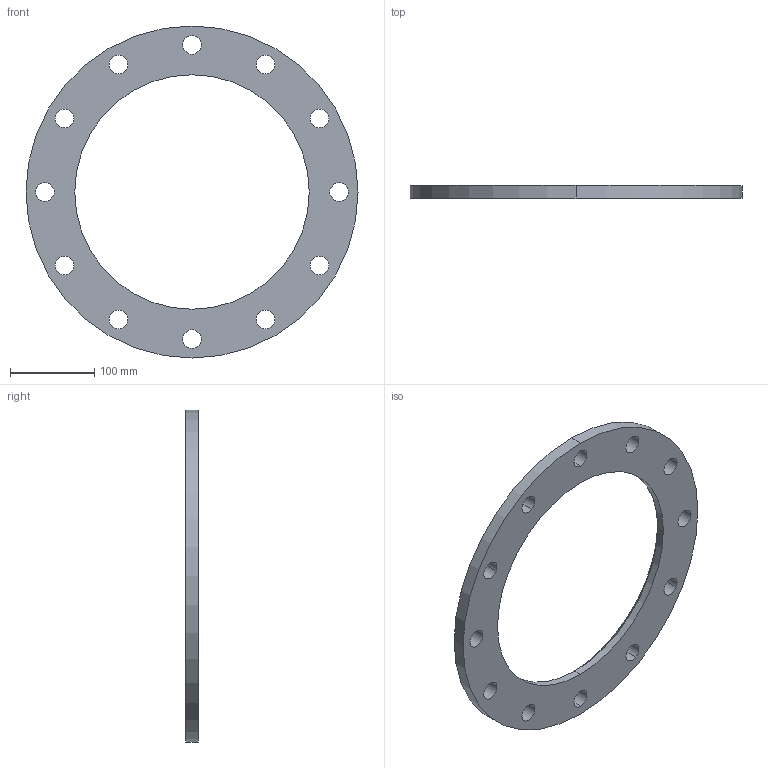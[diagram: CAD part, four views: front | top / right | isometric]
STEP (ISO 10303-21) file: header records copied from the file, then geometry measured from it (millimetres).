
FILE_DESCRIPTION (( 'STEP AP203' ), '1' );
FILE_NAME ('3D_R185_PN10_DN273_176641210_176642210.STEP', '2024-07-10T07:19:44', ( '' ), ( '' ), 'SwSTEP 2.0', 'SolidWorks 2024', '' );
FILE_SCHEMA (( 'CONFIG_CONTROL_DESIGN' ));
Length unit declared in the file: millimetre
Products named in the file (1): 3D_R185_PN10_DN273_176641210_176642210
Bounding box: 395 x 15 x 395 mm (x, y, z)
Volume: 839228.3 mm3; surface area: 155105.6 mm2
Topology: 1 solids, 1 shells, 32 faces, 88 edges, 58 vertices
Faces by surface type: cylinder 28, cone 2, plane 2
Entity records: 1183 total; most frequent: DIRECTION 212, CARTESIAN_POINT 179, ORIENTED_EDGE 176, AXIS2_PLACEMENT_3D 91, EDGE_CURVE 88, CIRCLE 58, EDGE_LOOP 58, VERTEX_POINT 58
